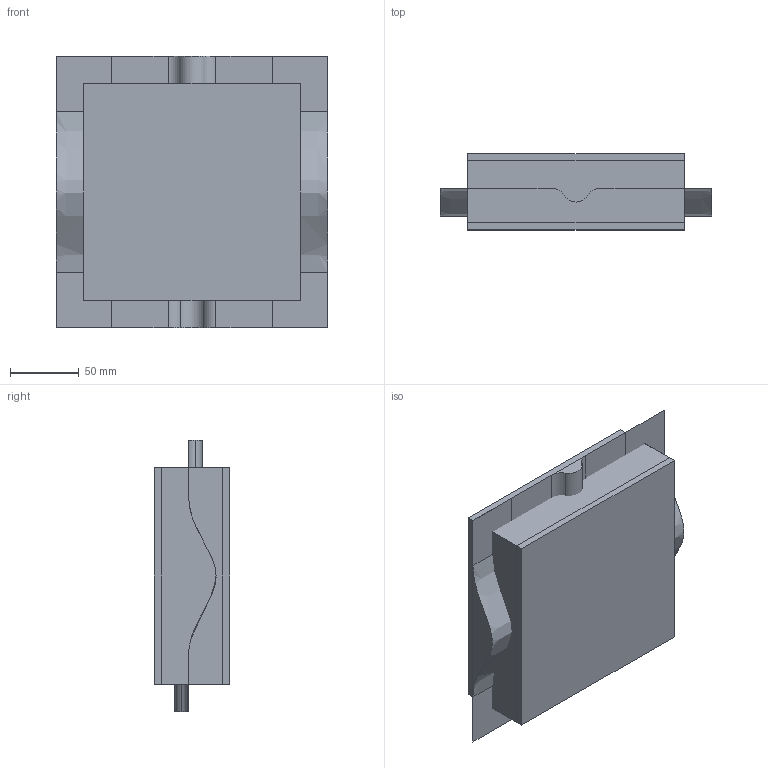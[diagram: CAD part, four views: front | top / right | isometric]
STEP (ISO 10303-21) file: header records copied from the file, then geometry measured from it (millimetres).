
FILE_DESCRIPTION(('CATIA V5 STEP Exchange'),'2;1');
FILE_NAME('C:\_Andres\UNIVERSIDAD\IQS\ASIGNATURAS\DAO\EXF\EXF-16172c\2inicio\Lopez_Triquell_Ej02_v17.stp','2017-03-05T15:45:26+00:00',('none'),('none'),'CATIA Version 5-6 Release 2014 SP1 HF18','CATIA V5 STEP AP203','none');
FILE_SCHEMA(('CONFIG_CONTROL_DESIGN'));
Length unit declared in the file: millimetre
Products named in the file (1): Lopez_Triquell_Ej02_v17
Bounding box: 197 x 55 x 197 mm (x, y, z)
Surface area: 249572.2 mm2
Topology: 3 solids, 10 shells, 72 faces, 205 edges, 150 vertices
Faces by surface type: bspline 32, plane 32, cylinder 6, extrusion 2
Entity records: 6179 total; most frequent: CARTESIAN_POINT 4862, ORIENTED_EDGE 288, DIRECTION 151, EDGE_CURVE 132, VERTEX_POINT 84, VECTOR 77, LINE 75, ADVANCED_FACE 72
